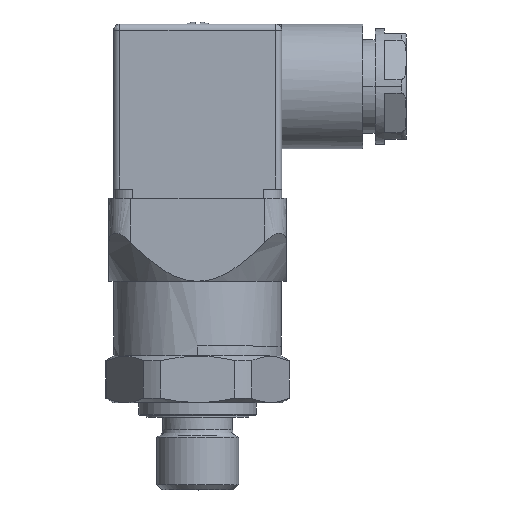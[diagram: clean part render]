
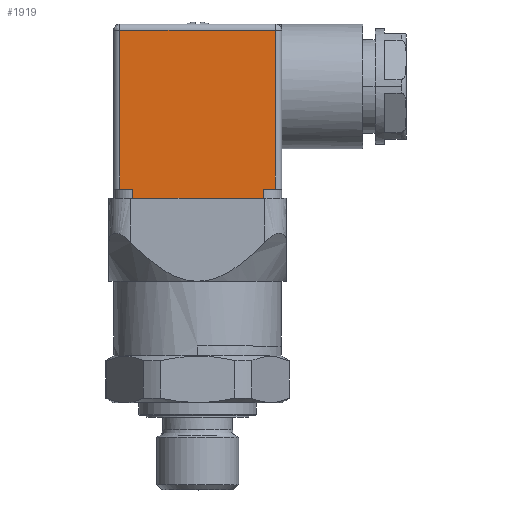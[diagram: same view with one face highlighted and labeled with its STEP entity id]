
A CAD part, top view. The second image highlights one B-rep face of the part: STEP entity #1919.
In plain terms, the highlighted planar face has unit normal (0, 0, 1).
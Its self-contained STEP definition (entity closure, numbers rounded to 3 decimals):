
#74=LINE('',#4450,#185);
#97=LINE('',#5024,#208);
#98=LINE('',#5064,#209);
#99=LINE('',#5067,#210);
#100=LINE('',#5069,#211);
#101=LINE('',#5071,#212);
#102=LINE('',#5073,#213);
#103=LINE('',#5074,#214);
#185=VECTOR('',#2168,21.);
#208=VECTOR('',#2201,1.5);
#209=VECTOR('',#2204,2.);
#210=VECTOR('',#2207,1.5);
#211=VECTOR('',#2208,25.5);
#212=VECTOR('',#2209,25.);
#213=VECTOR('',#2210,25.5);
#214=VECTOR('',#2211,2.);
#380=FACE_OUTER_BOUND('',#497,.T.);
#497=EDGE_LOOP('',(#1397,#1398,#1399,#1400,#1401,#1402,#1403,#1404));
#782=VERTEX_POINT('',#4399);
#783=VERTEX_POINT('',#4449);
#805=VERTEX_POINT('',#4974);
#806=VERTEX_POINT('',#5026);
#807=VERTEX_POINT('',#5066);
#808=VERTEX_POINT('',#5068);
#809=VERTEX_POINT('',#5070);
#810=VERTEX_POINT('',#5072);
#989=EDGE_CURVE('',#782,#783,#74,.T.);
#1020=EDGE_CURVE('',#805,#782,#97,.T.);
#1022=EDGE_CURVE('',#806,#805,#98,.T.);
#1023=EDGE_CURVE('',#807,#783,#99,.T.);
#1024=EDGE_CURVE('',#806,#808,#100,.T.);
#1025=EDGE_CURVE('',#809,#808,#101,.T.);
#1026=EDGE_CURVE('',#810,#809,#102,.T.);
#1027=EDGE_CURVE('',#807,#810,#103,.T.);
#1397=ORIENTED_EDGE('',*,*,#1023,.T.);
#1398=ORIENTED_EDGE('',*,*,#989,.F.);
#1399=ORIENTED_EDGE('',*,*,#1020,.F.);
#1400=ORIENTED_EDGE('',*,*,#1022,.F.);
#1401=ORIENTED_EDGE('',*,*,#1024,.T.);
#1402=ORIENTED_EDGE('',*,*,#1025,.F.);
#1403=ORIENTED_EDGE('',*,*,#1026,.F.);
#1404=ORIENTED_EDGE('',*,*,#1027,.F.);
#1733=PLANE('',#2037);
#1919=ADVANCED_FACE('',(#380),#1733,.T.);
#2037=AXIS2_PLACEMENT_3D('',#5065,#2205,#2206);
#2168=DIRECTION('',(-1.,0.,0.));
#2201=DIRECTION('',(0.,-1.,0.));
#2204=DIRECTION('',(-1.,0.,0.));
#2205=DIRECTION('center_axis',(0.,0.,1.));
#2206=DIRECTION('ref_axis',(1.,0.,0.));
#2207=DIRECTION('',(0.,-1.,0.));
#2208=DIRECTION('',(0.,1.,0.));
#2209=DIRECTION('',(1.,0.,0.));
#2210=DIRECTION('',(0.,1.,0.));
#2211=DIRECTION('',(-1.,0.,0.));
#4399=CARTESIAN_POINT('',(10.5,32.8,13.5));
#4449=CARTESIAN_POINT('',(-10.5,32.8,13.5));
#4450=CARTESIAN_POINT('',(10.5,32.8,13.5));
#4974=CARTESIAN_POINT('',(10.5,34.3,13.5));
#5024=CARTESIAN_POINT('',(10.5,34.3,13.5));
#5026=CARTESIAN_POINT('',(12.5,34.3,13.5));
#5064=CARTESIAN_POINT('',(12.5,34.3,13.5));
#5065=CARTESIAN_POINT('Origin',(0.,60.34,13.5));
#5066=CARTESIAN_POINT('',(-10.5,34.3,13.5));
#5067=CARTESIAN_POINT('',(-10.5,34.3,13.5));
#5068=CARTESIAN_POINT('',(12.5,59.8,13.5));
#5069=CARTESIAN_POINT('',(12.5,34.3,13.5));
#5070=CARTESIAN_POINT('',(-12.5,59.8,13.5));
#5071=CARTESIAN_POINT('',(-12.5,59.8,13.5));
#5072=CARTESIAN_POINT('',(-12.5,34.3,13.5));
#5073=CARTESIAN_POINT('',(-12.5,34.3,13.5));
#5074=CARTESIAN_POINT('',(-10.5,34.3,13.5));
